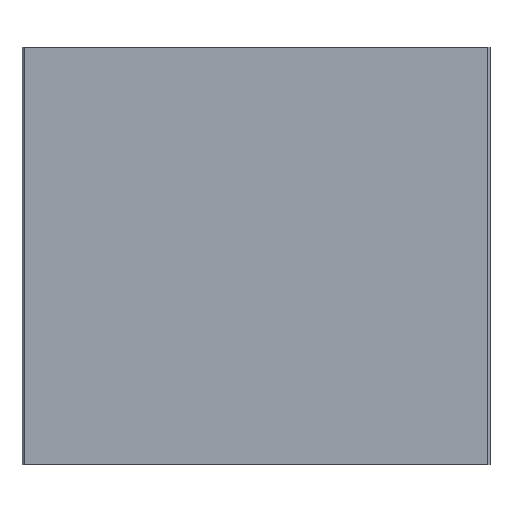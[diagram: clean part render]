
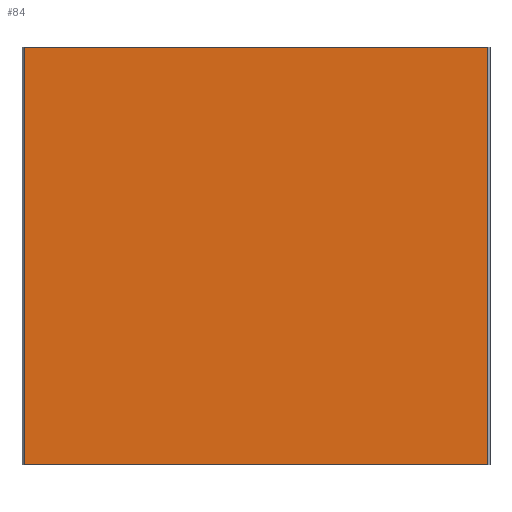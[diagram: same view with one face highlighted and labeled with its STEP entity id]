
A CAD part, left-side view. The second image highlights one B-rep face of the part: STEP entity #84.
In plain terms, the highlighted planar face has unit normal (-1, 0, 0).
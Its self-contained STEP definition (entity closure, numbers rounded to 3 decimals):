
#84=ADVANCED_FACE('',(#336),#338,.T.);
#336=FACE_BOUND('',#337,.T.);
#337=EDGE_LOOP('',(#553,#554,#555,#556));
#338=PLANE('',#339);
#339=AXIS2_PLACEMENT_3D('',#340,#341,#342);
#340=CARTESIAN_POINT('',(0.,0.,0.));
#341=DIRECTION('',(-1.,0.,0.));
#342=DIRECTION('',(0.,0.,-1.));
#553=ORIENTED_EDGE('',*,*,#634,.T.);
#554=ORIENTED_EDGE('',*,*,#635,.T.);
#555=ORIENTED_EDGE('',*,*,#636,.T.);
#556=ORIENTED_EDGE('',*,*,#629,.T.);
#629=EDGE_CURVE('',#685,#682,#686,.T.);
#634=EDGE_CURVE('',#682,#692,#693,.T.);
#635=EDGE_CURVE('',#692,#694,#695,.T.);
#636=EDGE_CURVE('',#694,#685,#696,.T.);
#682=VERTEX_POINT('',#786);
#685=VERTEX_POINT('',#791);
#686=LINE('',#792,#793);
#692=VERTEX_POINT('',#808);
#693=LINE('',#809,#810);
#694=VERTEX_POINT('',#812);
#695=LINE('',#813,#814);
#696=LINE('',#816,#817);
#786=CARTESIAN_POINT('',(0.,-50.5,-45.));
#791=CARTESIAN_POINT('',(0.,49.5,-45.));
#792=CARTESIAN_POINT('',(0.,49.5,-45.));
#793=VECTOR('',#794,1.);
#794=DIRECTION('',(0.,-1.,0.));
#808=CARTESIAN_POINT('',(0.,-50.5,45.));
#809=CARTESIAN_POINT('',(0.,-50.5,-45.));
#810=VECTOR('',#811,1.);
#811=DIRECTION('',(0.,0.,1.));
#812=CARTESIAN_POINT('',(0.,49.5,45.));
#813=CARTESIAN_POINT('',(0.,-50.5,45.));
#814=VECTOR('',#815,1.);
#815=DIRECTION('',(0.,1.,0.));
#816=CARTESIAN_POINT('',(0.,49.5,45.));
#817=VECTOR('',#818,1.);
#818=DIRECTION('',(0.,0.,-1.));
